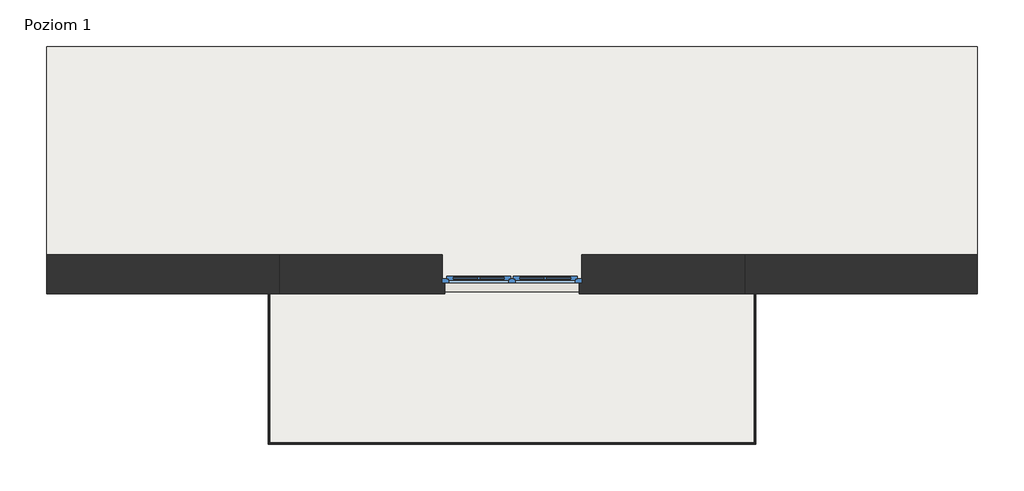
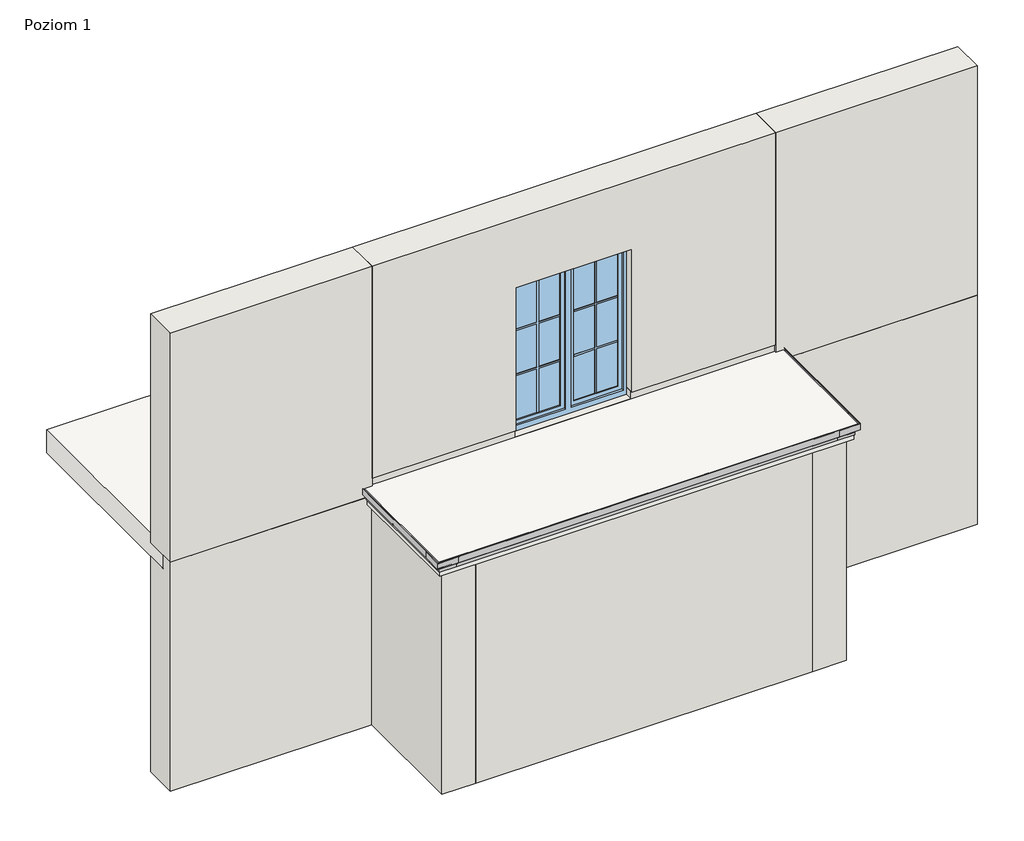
# One storey, part 1 of 4: 10 walls, 5 proxies, 3 slabs, 1 window.
"""IFC4 building model written with IfcOpenShell, lengths in millimetres."""

from ifc_helpers import new_model, si_unit, frame, origin, place, context, project, spatial, polyline, outline, extrude, faceted_brep, transform, mapped, element, save
from components import generic_models_5630e756, generic_models_7e4038cf, w63_4f693327, w63_a49d55f0, w63_5dd79a54, window_150x200_12b14935

model = new_model("IFC4")

# Units and contexts
model_context = context("Model", 3, world=origin())
ifc_project = project(units=[si_unit("LENGTHUNIT", "METRE", prefix="MILLI")], contexts=[model_context])

# Site, building, storey
site = spatial("IfcSite", under=ifc_project)
building = spatial("IfcBuilding", under=site)
storey = spatial("IfcBuildingStorey", under=building, Name="Poziom 1", Elevation=0.0)

# Proxies
placement = place(None, origin())
generic_models_shape = generic_models_5630e756(model_context)
element("IfcBuildingElementProxy", 1, Name="Odbojniki - OPW63 : Odbojniki - OPW63", ObjectType="Odbojniki - OPW63 : Odbojniki - OPW63", at=placement, inside=storey, context=model_context, shape_type="MappedRepresentation", body=[
    mapped(generic_models_shape, transform((-100537.9865026, 45281.1663007, -55.0), x_axis=(0.0, -1.0, 0.0), y_axis=(1.0, 0.0, 0.0), z_axis=(0.0, 0.0, 1.0))),
])
generic_models_2_shape = generic_models_7e4038cf(model_context)
element("IfcBuildingElementProxy", 2, Name="Odbojniki - OPW63 : Odbojniki - OPW63", ObjectType="Odbojniki - OPW63 : Odbojniki - OPW63", at=placement, inside=storey, context=model_context, shape_type="MappedRepresentation", body=[
    mapped(generic_models_2_shape, transform((-105770.4865026, 45282.2483344, -55.0), x_axis=(0.0, -1.0, 0.0), y_axis=(1.0, 0.0, 0.0), z_axis=(0.0, 0.0, 1.0))),
])
w63_shape = w63_4f693327(model_context)
element("IfcBuildingElementProxy", 3, Name="W63 Profil okapowy prosty : W63", ObjectType="W63 Profil okapowy prosty : W63", at=placement, inside=storey, context=model_context, shape_type="MappedRepresentation", body=[
    mapped(w63_shape, transform((-105717.2365026, 45285.2483344, -55.0), x_axis=(0.0, -1.0, 0.0), y_axis=(1.0, 0.0, 0.0), z_axis=(0.0, 0.0, 1.0))),
])
w63_2_shape = w63_a49d55f0(model_context)
element("IfcBuildingElementProxy", 4, Name="W63 Profil okapowy prosty : W63", ObjectType="W63 Profil okapowy prosty : W63", at=placement, inside=storey, context=model_context, shape_type="MappedRepresentation", body=[
    mapped(w63_2_shape, transform((-100591.2365026, 45284.1663007, -55.0), x_axis=(0.0, -1.0, 0.0), y_axis=(1.0, 0.0, 0.0), z_axis=(0.0, 0.0, 1.0))),
])
w63_3_shape = w63_5dd79a54(model_context)
element("IfcBuildingElementProxy", 5, Name="W63 Profil okapowy prosty : W63", ObjectType="W63 Profil okapowy prosty : W63", at=placement, inside=storey, context=model_context, shape_type="MappedRepresentation", body=[
    mapped(w63_3_shape, transform((-105717.2365026, 43700.2483344, -55.0), x_axis=(1.0, 0.0, 0.0), y_axis=(0.0, 1.0, 0.0), z_axis=(0.0, 0.0, 1.0))),
])

# Slabs
element("IfcSlab", 6, ObjectType="Taras - wykończenie - posadzka z płytek grubowarstwowych - podkładka P1 - hydroizolacja", at=placement, inside=storey, context=model_context, shape_type="SweptSolid", body=[
    extrude(outline(polyline([(-105717.2365026, 43700.2483344), (-105717.2365026, 45285.2483344), (-100591.2365026, 45285.2483344), (-100591.2365026, 43700.2483344), (-105717.2365026, 43700.2483344)])), frame((0.0, 0.0, -215.0), z_axis=(0.0, 0.0, 1.0), x_axis=(1.0, 0.0, 0.0)), (0.0, 0.0, 1.0), 160.0),
])
element("IfcSlab", 7, ObjectType="Taras - wykończenie - posadzka z płytek grubowarstwowych", at=placement, inside=storey, context=model_context, shape_type="SweptSolid", body=[
    extrude(outline(polyline([(-105749.4365026, 43668.0483344), (-105749.4365026, 45285.2483344), (-100559.0365026, 45285.2483344), (-100559.0365026, 43668.0483344), (-105749.4365026, 43668.0483344)])), frame((0.0, 0.0, -55.0), z_axis=(0.0, 0.0, 1.0), x_axis=(1.0, 0.0, 0.0)), (0.0, 0.0, 1.0), 55.0),
])
element("IfcSlab", 8, ObjectType="Strop", at=placement, inside=storey, context=model_context, shape_type="Brep", body=[
    faceted_brep([(-98154.2365026, 45418.2483344, -300.0), (-100649.2365026, 45418.2483344, -300.0), (-101069.2365026, 45418.2483344, -300.0), (-105239.2365026, 45418.2483344, -300.0), (-108154.2365026, 45418.2483344, -300.0), (-108154.2365026, 45683.2483344, -300.0), (-108154.2365026, 47918.2483344, -300.0), (-98154.2365026, 47918.2483344, -300.0), (-98154.2365026, 45683.2483344, -300.0), (-98154.2365026, 45418.2483344, 0.0), (-98154.2365026, 47918.2483344, 0.0), (-108154.2365026, 47918.2483344, 0.0), (-108154.2365026, 45418.2483344, 0.0), (-105654.2365026, 45418.2483344, 0.0), (-103904.2365026, 45418.2483344, 0.0), (-102404.2365026, 45418.2483344, 0.0), (-100654.2365026, 45418.2483344, 0.0), (-98154.2365026, 45418.2483344, -125.0), (-108154.2365026, 45418.2483344, -125.0)], [[[0, 1, 2, 3, 4, 5, 6, 7, 8]], [[9, 10, 11, 12, 13, 14, 15, 16]], [[4, 3, 2, 1, 0, 17, 9, 16, 15, 14, 13, 12, 18]], [[6, 5, 4, 18, 12, 11]], [[7, 6, 11, 10]], [[0, 8, 7, 10, 9, 17]]]),
])

# Walls
element("IfcWall", 9, ObjectType="Porotherm P+W 25 + o15 + t", at=placement, inside=storey, context=model_context, shape_type="Brep", body=[
    faceted_brep([(-108154.2365026, 45263.2483344, -3125.0), (-105659.2365026, 45263.2483344, -3125.0), (-105239.2365026, 45263.2483344, -3125.0), (-105239.2365026, 45263.2483344, -147.509132), (-105449.2365026, 45263.2483344, -147.509132), (-105449.2365026, 45263.2483344, -125.0), (-105654.2365026, 45263.2483344, -125.0), (-108154.2365026, 45263.2483344, -125.0), (-105239.2365026, 45683.2483344, -3125.0), (-108154.2365026, 45683.2483344, -3125.0), (-108154.2365026, 45683.2483344, -300.0), (-105239.2365026, 45683.2483344, -300.0), (-105239.2365026, 45403.2483344, -3125.0), (-105449.2365026, 45403.2483344, -125.0), (-105449.2365026, 45418.2483344, -125.0), (-108154.2365026, 45418.2483344, -125.0), (-108154.2365026, 45418.2483344, -300.0), (-105239.2365026, 45418.2483344, -300.0), (-105449.2365026, 45418.2483344, -147.509132), (-105239.2365026, 45418.2483344, -147.509132), (-105449.2365026, 45403.2483344, -147.509132), (-105239.2365026, 45403.2483344, -147.509132)], [[[0, 1, 2, 3, 4, 5, 6, 7]], [[8, 9, 10, 11]], [[2, 1, 0, 9, 8, 12]], [[7, 6, 5, 13, 14, 15]], [[0, 7, 15, 16, 10, 9]], [[16, 17, 11, 10]], [[17, 16, 15, 14, 18, 19]], [[5, 4, 20, 18, 14, 13]], [[4, 3, 21, 19, 18, 20]], [[3, 2, 12, 8, 11, 17, 19, 21]]]),
])
element("IfcWall", 10, ObjectType="Porotherm P+W 25 + o15 + t", at=placement, inside=storey, context=model_context, shape_type="Brep", body=[
    faceted_brep([(-105659.2365026, 45263.2483344, -3125.0), (-105659.2365026, 43758.2483344, -3125.0), (-105659.2365026, 43758.2483344, -147.509132), (-105659.2365026, 45263.2483344, -147.509132), (-105239.2365026, 45263.2483344, -3125.0), (-105239.2365026, 45263.2483344, -147.509132), (-105239.2365026, 44178.2483344, -147.509132), (-105239.2365026, 43758.2483344, -147.509132), (-105239.2365026, 43758.2483344, -3125.0), (-105239.2365026, 44178.2483344, -3125.0), (-105449.2365026, 45263.2483344, -147.509132)], [[[0, 1, 2, 3]], [[4, 5, 6, 7, 8, 9]], [[1, 0, 4, 9, 8]], [[3, 2, 7, 6, 5, 10]], [[2, 1, 8, 7]], [[0, 3, 10, 5, 4]]]),
])
element("IfcWall", 11, ObjectType="Porotherm P+W 25 + o15 + t", at=placement, inside=storey, context=model_context, shape_type="SweptSolid", body=[
    extrude(outline(polyline([(-101069.2365026, 43758.2483344), (-105239.2365026, 43758.2483344), (-105239.2365026, 44178.2483344), (-101069.2365026, 44178.2483344), (-101069.2365026, 43758.2483344)])), frame((0.0, 0.0, -3125.0), z_axis=(0.0, 0.0, 1.0), x_axis=(1.0, 0.0, 0.0)), (0.0, 0.0, 1.0), 2977.490868),
])
element("IfcWall", 12, ObjectType="Porotherm P+W 25 + o15 + t", at=placement, inside=storey, context=model_context, shape_type="Brep", body=[
    faceted_brep([(-100649.2365026, 43758.2483344, -3125.0), (-100649.2365026, 45263.2483344, -3125.0), (-100649.2365026, 45683.2483344, -3125.0), (-100649.2365026, 45683.2483344, -300.0), (-100649.2365026, 45683.2483344, -147.509132), (-100649.2365026, 45418.2483344, -147.509132), (-100649.2365026, 45263.2483344, -147.509132), (-100649.2365026, 43758.2483344, -147.509132), (-101069.2365026, 43758.2483344, -3125.0), (-101069.2365026, 43758.2483344, -147.509132), (-101069.2365026, 44178.2483344, -147.509132), (-101069.2365026, 45403.2483344, -147.509132), (-101069.2365026, 45418.2483344, -147.509132), (-101069.2365026, 45683.2483344, -147.509132), (-101069.2365026, 45683.2483344, -300.0), (-101069.2365026, 45683.2483344, -3125.0), (-101069.2365026, 45403.2483344, -3125.0), (-101069.2365026, 44178.2483344, -3125.0)], [[[0, 1, 2, 3, 4, 5, 6, 7]], [[8, 9, 10, 11, 12, 13, 14, 15, 16, 17]], [[2, 1, 0, 8, 17, 16, 15]], [[7, 6, 5, 4, 13, 12, 11, 10, 9]], [[0, 7, 9, 8]], [[4, 3, 2, 15, 14, 13]]]),
])
element("IfcWall", 13, ObjectType="Porotherm P+W 25 + o15 + t", at=placement, inside=storey, context=model_context, shape_type="Brep", body=[
    faceted_brep([(-100649.2365026, 45263.2483344, -3125.0), (-98154.2365026, 45263.2483344, -3125.0), (-98154.2365026, 45263.2483344, -125.0), (-100654.2365026, 45263.2483344, -125.0), (-100859.2365026, 45263.2483344, -125.0), (-100859.2365026, 45263.2483344, -147.509132), (-100649.2365026, 45263.2483344, -147.509132), (-98154.2365026, 45683.2483344, -3125.0), (-100649.2365026, 45683.2483344, -3125.0), (-100649.2365026, 45683.2483344, -300.0), (-98154.2365026, 45683.2483344, -300.0), (-98154.2365026, 45418.2483344, -300.0), (-98154.2365026, 45418.2483344, -125.0), (-100859.2365026, 45418.2483344, -125.0), (-100859.2365026, 45403.2483344, -125.0), (-100649.2365026, 45418.2483344, -300.0), (-100649.2365026, 45418.2483344, -147.509132), (-100859.2365026, 45418.2483344, -147.509132), (-100859.2365026, 45403.2483344, -147.509132)], [[[0, 1, 2, 3, 4, 5, 6]], [[7, 8, 9, 10]], [[1, 0, 8, 7]], [[2, 1, 7, 10, 11, 12]], [[4, 3, 2, 12, 13, 14]], [[15, 11, 10, 9]], [[11, 15, 16, 17, 13, 12]], [[5, 4, 14, 13, 17, 18]], [[6, 5, 18, 17, 16]], [[0, 6, 16, 15, 9, 8]]]),
])
element("IfcWall", 14, ObjectType="Porotherm P+W 25(wieniec 45) + t", at=placement, inside=storey, context=model_context, shape_type="Brep", body=[
    faceted_brep([(-105239.2365026, 45403.2483344, -3125.0), (-101069.2365026, 45403.2483344, -3125.0), (-101069.2365026, 45403.2483344, -147.509132), (-100859.2365026, 45403.2483344, -147.509132), (-100859.2365026, 45403.2483344, -125.0), (-105449.2365026, 45403.2483344, -125.0), (-105449.2365026, 45403.2483344, -147.509132), (-105239.2365026, 45403.2483344, -147.509132), (-101069.2365026, 45683.2483344, -3125.0), (-105239.2365026, 45683.2483344, -3125.0), (-105239.2365026, 45683.2483344, -300.0), (-101069.2365026, 45683.2483344, -300.0), (-100859.2365026, 45418.2483344, -125.0), (-105449.2365026, 45418.2483344, -125.0), (-105239.2365026, 45418.2483344, -300.0), (-101069.2365026, 45418.2483344, -300.0), (-105239.2365026, 45418.2483344, -147.509132), (-105449.2365026, 45418.2483344, -147.509132), (-100859.2365026, 45418.2483344, -147.509132), (-101069.2365026, 45418.2483344, -147.509132)], [[[0, 1, 2, 3, 4, 5, 6, 7]], [[8, 9, 10, 11]], [[1, 0, 9, 8]], [[5, 4, 12, 13]], [[14, 15, 11, 10]], [[15, 14, 16, 17, 13, 12, 18, 19]], [[6, 5, 13, 17]], [[7, 6, 17, 16]], [[0, 7, 16, 14, 10, 9]], [[4, 3, 18, 12]], [[3, 2, 19, 18]], [[2, 1, 8, 11, 15, 19]]]),
])
element("IfcWall", 15, ObjectType="Porotherm P+W 25 + o15 + t", at=placement, inside=storey, context=model_context, shape_type="Brep", body=[
    faceted_brep([(-108154.2365026, 45263.2483344, -125.0), (-105654.2365026, 45263.2483344, -125.0), (-105654.2365026, 45263.2483344, 100.0), (-105654.2365026, 45263.2483344, 2875.0), (-108154.2365026, 45263.2483344, 2875.0), (-108154.2365026, 45683.2483344, -125.0), (-108154.2365026, 45683.2483344, 2875.0), (-105654.2365026, 45683.2483344, 2875.0), (-105654.2365026, 45683.2483344, 100.0), (-105654.2365026, 45683.2483344, 0.0), (-105654.2365026, 45683.2483344, -125.0), (-108154.2365026, 45418.2483344, -125.0), (-105654.2365026, 45418.2483344, -125.0), (-105654.2365026, 45285.2483344, -125.0)], [[[0, 1, 2, 3, 4]], [[5, 6, 7, 8, 9, 10]], [[1, 0, 11, 5, 10, 12, 13]], [[4, 3, 7, 6]], [[0, 4, 6, 5, 11]], [[1, 13, 12, 10, 9, 8, 7, 3, 2]]]),
])
element("IfcWall", 16, ObjectType="Porotherm P+W 25 + o15 + t", at=placement, inside=storey, context=model_context, shape_type="Brep", body=[
    faceted_brep([(-100654.2365026, 45263.2483344, 2875.0), (-100654.2365026, 45263.2483344, 100.0), (-100654.2365026, 45263.2483344, -125.0), (-98154.2365026, 45263.2483344, -125.0), (-98154.2365026, 45263.2483344, 2875.0), (-100654.2365026, 45683.2483344, -125.0), (-100654.2365026, 45683.2483344, 0.0), (-100654.2365026, 45683.2483344, 100.0), (-100654.2365026, 45683.2483344, 2875.0), (-98154.2365026, 45683.2483344, 2875.0), (-98154.2365026, 45683.2483344, -125.0), (-100654.2365026, 45285.2483344, -125.0), (-100654.2365026, 45418.2483344, -125.0), (-98154.2365026, 45418.2483344, -125.0)], [[[0, 1, 2, 3, 4]], [[5, 6, 7, 8, 9, 10]], [[3, 2, 11, 12, 5, 10, 13]], [[4, 3, 13, 10, 9]], [[0, 4, 9, 8]], [[0, 8, 7, 6, 5, 12, 11, 2, 1]]]),
])
element("IfcWall", 17, ObjectType="Porotherm P+W 25 + o12 + pł ceramiczne", at=placement, inside=storey, context=model_context, shape_type="Brep", body=[
    faceted_brep([(-105654.2365026, 45285.2483344, -125.0), (-100654.2365026, 45285.2483344, -125.0), (-100654.2365026, 45285.2483344, 100.0), (-102434.2365026, 45285.2483344, 100.0), (-102434.2365026, 45285.2483344, 0.0), (-103874.2365026, 45285.2483344, 0.0), (-103874.2365026, 45285.2483344, 100.0), (-105654.2365026, 45285.2483344, 100.0), (-102404.2365026, 45683.2483344, 100.0), (-100654.2365026, 45683.2483344, 100.0), (-100654.2365026, 45683.2483344, 0.0), (-102404.2365026, 45683.2483344, 0.0), (-105654.2365026, 45683.2483344, 100.0), (-103904.2365026, 45683.2483344, 100.0), (-103904.2365026, 45683.2483344, 0.0), (-105654.2365026, 45683.2483344, 0.0), (-105654.2365026, 45418.2483344, -125.0), (-100654.2365026, 45418.2483344, -125.0), (-100654.2365026, 45418.2483344, 0.0), (-102404.2365026, 45383.2483344, 100.0), (-102434.2365026, 45383.2483344, 100.0), (-103874.2365026, 45383.2483344, 100.0), (-103904.2365026, 45383.2483344, 100.0), (-105654.2365026, 45418.2483344, 0.0), (-102404.2365026, 45418.2483344, 0.0), (-103904.2365026, 45418.2483344, 0.0), (-103904.2365026, 45383.2483344, 0.0), (-103874.2365026, 45383.2483344, 0.0), (-102434.2365026, 45383.2483344, 0.0), (-102404.2365026, 45383.2483344, 0.0)], [[[0, 1, 2, 3, 4, 5, 6, 7]], [[8, 9, 10, 11]], [[12, 13, 14, 15]], [[1, 0, 16, 17]], [[2, 1, 17, 18, 10, 9]], [[2, 9, 8, 19, 20, 3]], [[12, 7, 6, 21, 22, 13]], [[0, 7, 12, 15, 23, 16]], [[18, 24, 11, 10]], [[25, 23, 15, 14]], [[24, 18, 17, 16, 23, 25]], [[26, 27, 5, 4, 28, 29, 24, 25]], [[27, 26, 22, 21]], [[29, 28, 20, 19]], [[29, 19, 8, 11, 24]], [[22, 26, 25, 14, 13]], [[28, 4, 3, 20]], [[5, 27, 21, 6]]]),
])
element("IfcWall", 18, ObjectType="Porotherm P+W 25 + o15 + t", at=placement, inside=storey, context=model_context, shape_type="Brep", body=[
    faceted_brep([(-100654.2365026, 45263.2483344, 100.0), (-100654.2365026, 45263.2483344, 2875.0), (-105654.2365026, 45263.2483344, 2875.0), (-105654.2365026, 45263.2483344, 100.0), (-103874.2365026, 45263.2483344, 100.0), (-103874.2365026, 45263.2483344, 1970.0), (-102434.2365026, 45263.2483344, 1970.0), (-102434.2365026, 45263.2483344, 100.0), (-100654.2365026, 45683.2483344, 2875.0), (-100654.2365026, 45683.2483344, 100.0), (-102404.2365026, 45683.2483344, 100.0), (-102404.2365026, 45683.2483344, 2000.0), (-103904.2365026, 45683.2483344, 2000.0), (-103904.2365026, 45683.2483344, 100.0), (-105654.2365026, 45683.2483344, 100.0), (-105654.2365026, 45683.2483344, 2875.0), (-105654.2365026, 45285.2483344, 100.0), (-103904.2365026, 45383.2483344, 100.0), (-103874.2365026, 45383.2483344, 100.0), (-103874.2365026, 45285.2483344, 100.0), (-100654.2365026, 45285.2483344, 100.0), (-102434.2365026, 45285.2483344, 100.0), (-102434.2365026, 45383.2483344, 100.0), (-102404.2365026, 45383.2483344, 100.0), (-102404.2365026, 45383.2483344, 2000.0), (-102434.2365026, 45383.2483344, 1970.0), (-103904.2365026, 45383.2483344, 2000.0), (-103874.2365026, 45383.2483344, 1970.0)], [[[0, 1, 2, 3, 4, 5, 6, 7]], [[8, 9, 10, 11, 12, 13, 14, 15]], [[3, 16, 14, 13, 17, 18, 19, 4]], [[9, 20, 0, 7, 21, 22, 23, 10]], [[1, 0, 20, 9, 8]], [[2, 1, 8, 15]], [[3, 2, 15, 14, 16]], [[24, 11, 10, 23]], [[6, 25, 22, 21, 7]], [[26, 12, 11, 24]], [[26, 24, 23, 22, 25, 27, 18, 17]], [[12, 26, 17, 13]], [[27, 25, 6, 5]], [[27, 5, 4, 19, 18]]]),
])

# Window
window_150x200_shape = window_150x200_12b14935(model_context)
element("IfcWindow", 19, ObjectType="OKNO_2X_W_SZ : 150x200", at=placement, inside=storey, context=model_context, shape_type="MappedRepresentation", body=[
    mapped(window_150x200_shape, transform((-103154.2365026, 45473.2483344, -850.0), x_axis=(-1.0, 0.0, 0.0), y_axis=(0.0, -1.0, 0.0), z_axis=(0.0, 0.0, 1.0))),
])

save(model, "model.ifc")
